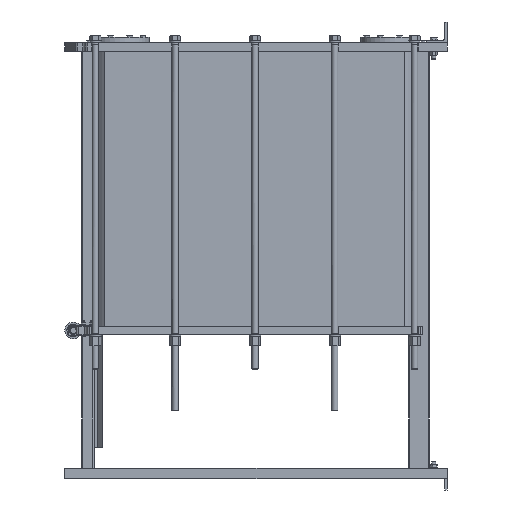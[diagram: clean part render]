
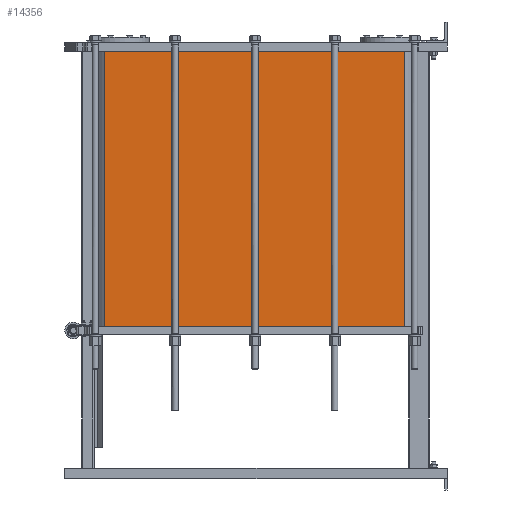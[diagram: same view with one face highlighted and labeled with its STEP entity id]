
A CAD part, left-side view. The second image highlights one B-rep face of the part: STEP entity #14356.
In plain terms, the highlighted planar face has unit normal (-1, 0, 0).
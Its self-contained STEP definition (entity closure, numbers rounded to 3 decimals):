
#3990 = LINE ( 'NONE', #37875, #120987 ) ;
#5238 = EDGE_CURVE ( 'NONE', #48853, #54738, #3990, .T. ) ;
#6820 = DIRECTION ( 'NONE',  ( 0., 1., 0. ) ) ;
#14356 = ADVANCED_FACE ( 'NONE', ( #84604 ), #59828, .T. ) ;
#16721 = DIRECTION ( 'NONE',  ( -1., 0., 0. ) ) ;
#31677 = VECTOR ( 'NONE', #136335, 1000. ) ;
#32666 = EDGE_CURVE ( 'NONE', #68660, #127608, #60001, .T. ) ;
#37875 = CARTESIAN_POINT ( 'NONE',  ( 56., 202.28, -140. ) ) ;
#40016 = ORIENTED_EDGE ( 'NONE', *, *, #77004, .F. ) ;
#48853 = VERTEX_POINT ( 'NONE', #141192 ) ;
#52240 = CARTESIAN_POINT ( 'NONE',  ( 56., 202.28, -1460. ) ) ;
#54738 = VERTEX_POINT ( 'NONE', #52240 ) ;
#58718 = VECTOR ( 'NONE', #109825, 1000. ) ;
#58874 = ORIENTED_EDGE ( 'NONE', *, *, #32666, .T. ) ;
#59828 = PLANE ( 'NONE',  #95663 ) ;
#60001 = LINE ( 'NONE', #79875, #31677 ) ;
#67634 = CARTESIAN_POINT ( 'NONE',  ( 56., 922., -1460. ) ) ;
#68660 = VERTEX_POINT ( 'NONE', #126418 ) ;
#73026 = EDGE_LOOP ( 'NONE', ( #40016, #58874, #122551, #74370 ) ) ;
#74370 = ORIENTED_EDGE ( 'NONE', *, *, #5238, .F. ) ;
#77004 = EDGE_CURVE ( 'NONE', #68660, #48853, #111923, .T. ) ;
#79875 = CARTESIAN_POINT ( 'NONE',  ( 56., 1641.72, -140. ) ) ;
#84604 = FACE_OUTER_BOUND ( 'NONE', #73026, .T. ) ;
#86953 = CARTESIAN_POINT ( 'NONE',  ( 56., 922., -140. ) ) ;
#95663 = AXIS2_PLACEMENT_3D ( 'NONE', #129637, #16721, #6820 ) ;
#98519 = VECTOR ( 'NONE', #126446, 1000. ) ;
#109825 = DIRECTION ( 'NONE',  ( 0., -1., 0. ) ) ;
#111923 = LINE ( 'NONE', #86953, #58718 ) ;
#116560 = DIRECTION ( 'NONE',  ( 0., 0., -1. ) ) ;
#117971 = LINE ( 'NONE', #67634, #98519 ) ;
#120987 = VECTOR ( 'NONE', #116560, 1000. ) ;
#122551 = ORIENTED_EDGE ( 'NONE', *, *, #133255, .F. ) ;
#126418 = CARTESIAN_POINT ( 'NONE',  ( 56., 1641.72, -140. ) ) ;
#126446 = DIRECTION ( 'NONE',  ( 0., 1., 0. ) ) ;
#127608 = VERTEX_POINT ( 'NONE', #140347 ) ;
#129637 = CARTESIAN_POINT ( 'NONE',  ( 56., 202.28, -140. ) ) ;
#133255 = EDGE_CURVE ( 'NONE', #54738, #127608, #117971, .T. ) ;
#136335 = DIRECTION ( 'NONE',  ( 0., 0., -1. ) ) ;
#140347 = CARTESIAN_POINT ( 'NONE',  ( 56., 1641.72, -1460. ) ) ;
#141192 = CARTESIAN_POINT ( 'NONE',  ( 56., 202.28, -140. ) ) ;
